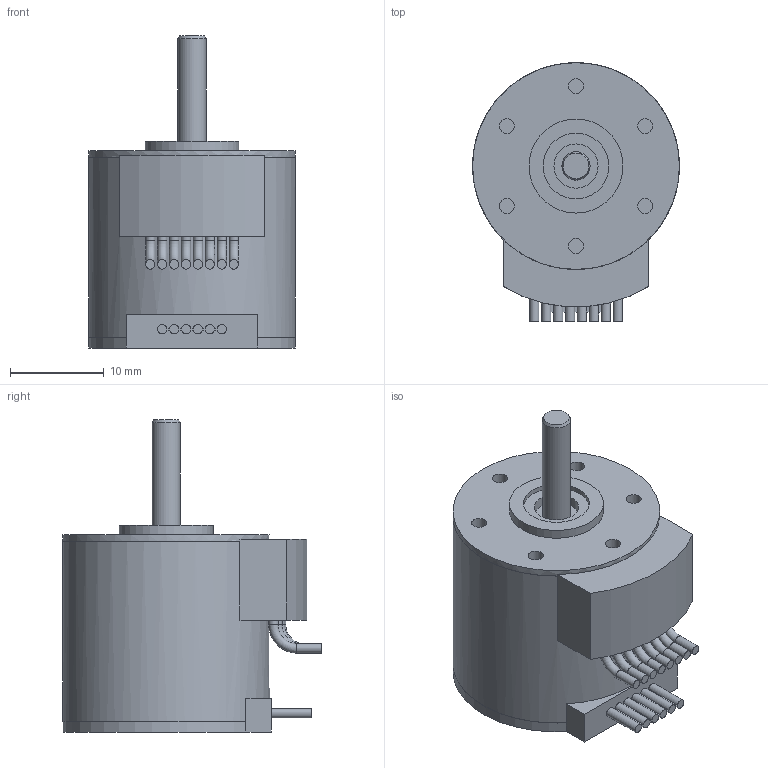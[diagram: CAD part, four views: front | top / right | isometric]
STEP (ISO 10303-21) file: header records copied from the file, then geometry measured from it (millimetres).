
FILE_DESCRIPTION(/* description */ (''),/* implementation_level */ '2;1');
FILE_NAME(/* name */ '2214.BXT_IE3.stp',/* time_stamp */ '2019-09-17T16:10:31+02:00',/* author */ ('DR. FRITZ FAULHABER GmbH & Co. KG'),/* organization */ ('DR. FRITZ FAULHABER GmbH & Co. KG'),/* preprocessor_version */ 'ST-DEVELOPER v16.7',/* originating_system */ 'SIEMENS PLM Software NX 12.0',/* authorisation */ '');
FILE_SCHEMA (('AUTOMOTIVE_DESIGN { 1 0 10303 214 3 1 1 1 }'));
Length unit declared in the file: millimetre
Products named in the file (1): H00002275-A-2214.0H006
Bounding box: 22 x 27.5 x 33.2 mm (x, y, z)
Volume: 8761.5 mm3; surface area: 2967.1 mm2
Topology: 1 solids, 1 shells, 96 faces, 203 edges, 128 vertices
Faces by surface type: plane 45, cylinder 42, torus 8, cone 1
Full cylindrical faces by diameter (mm): 1 x16, 1.6 x6, 3 x1, 4.7 x1, 7 x1, 10 x1, 22 x2
Entity records: 2400 total; most frequent: DIRECTION 446, CARTESIAN_POINT 387, ORIENTED_EDGE 328, AXIS2_PLACEMENT_3D 185, EDGE_CURVE 164, EDGE_LOOP 152, VERTEX_POINT 126, FACE_BOUND 99
